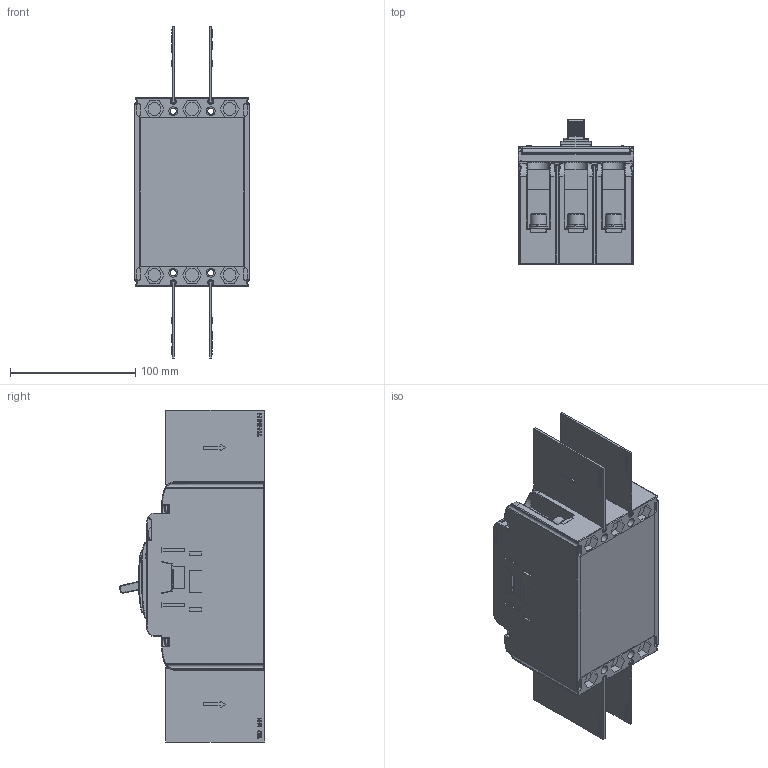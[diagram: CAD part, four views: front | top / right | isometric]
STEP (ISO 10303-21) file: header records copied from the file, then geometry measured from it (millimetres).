
FILE_DESCRIPTION((''),'2;1');
FILE_NAME('2TZD_256_6056_4_SW0001','2023-12-14T14:46:23',('zhenghaojing'),(''),'CREO PARAMETRIC BY PTC INC, 2020354','CREO PARAMETRIC BY PTC INC, 2020354','');
FILE_SCHEMA(('CONFIG_CONTROL_DESIGN'));
Products named in the file (1): 2TZD_256_6056_4_SW0001
Bounding box: 92.5 x 115.79 x 265 mm (x, y, z)
Volume: 523579.1 mm3; surface area: 304417.7 mm2
Topology: 3 solids, 3 shells, 6273 faces, 17038 edges, 10957 vertices
Faces by surface type: plane 4802, cylinder 1041, torus 151, bspline 115, cone 86, sphere 78
Entity records: 201665 total; most frequent: CARTESIAN_POINT 42991, ORIENTED_EDGE 34052, DIRECTION 31370, EDGE_CURVE 17026, VECTOR 13574, LINE 13574, VERTEX_POINT 10957, AXIS2_PLACEMENT_3D 8898
